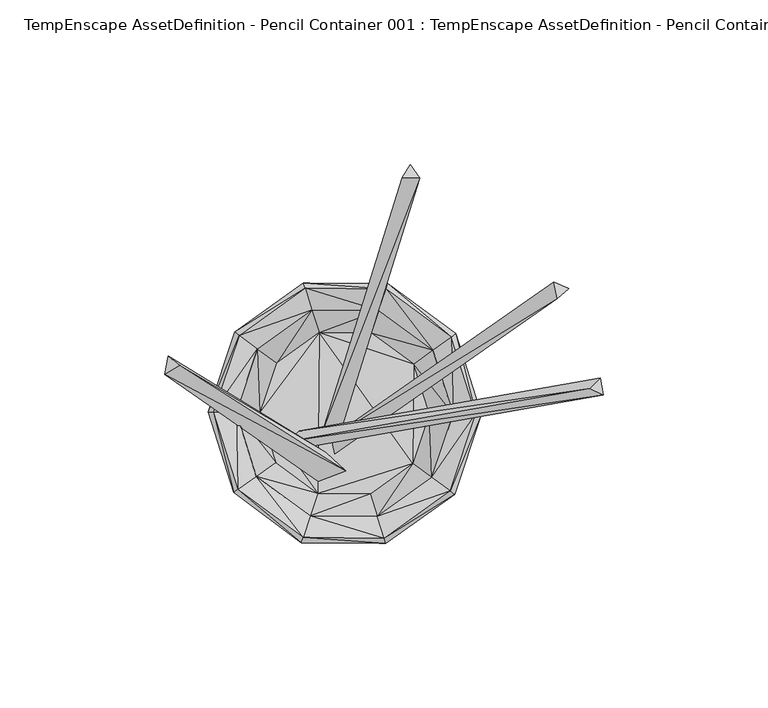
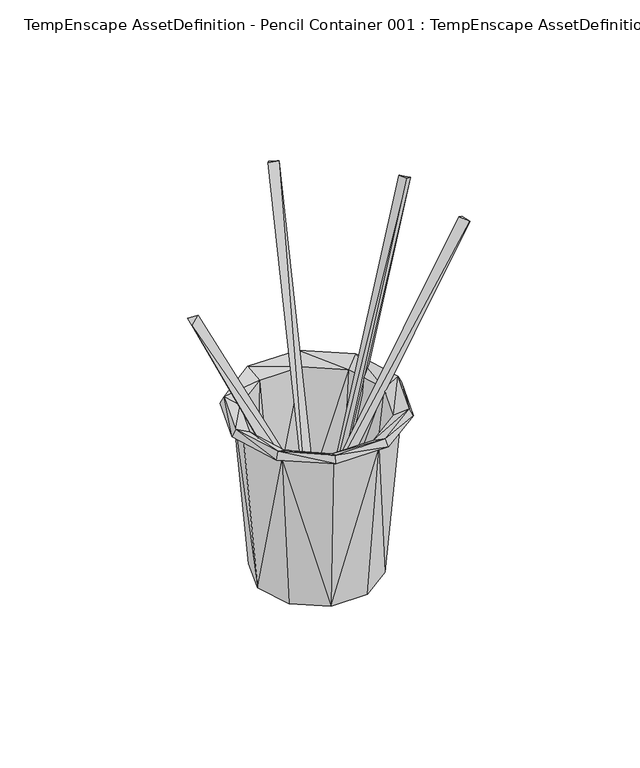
"""IFC4 building model written with IfcOpenShell, lengths in millimetres: geographic element geometry, TempEnscape AssetDefinition - Pencil Container 001 : TempEnscape AssetDefinition - Pencil Container 001."""

from ifc_helpers import new_model, si_unit, origin, place, context, project, spatial, faceted_brep, source, transform, mapped, element, save


def tempenscape_assetdefinition_pencil_container_001_tempenscape_466b47a7(model_context):
    return source(origin(), model_context, "Body", "Brep", [
        faceted_brep([(-23.6661285, 17.1942711, 0.0), (-10.8405147, 34.2406593, 79.2191401), (-9.039239, 27.8211795, 0.0), (-28.8953707, 21.3287827, 79.2191401), (9.039239, 27.8211795, 0.0), (11.3570718, 34.0732671, 79.2191401), (-12.5360135, 39.5962186, 82.6296508), (13.1326728, 39.4021273, 82.6296508), (0.0, 0.0, 0.0), (-29.2527508, 0.0, 0.0), (-29.2147547, -20.8902732, 79.2191401), (-23.6661285, -17.1942711, 0.0), (-35.9145962, 0.2711155, 79.2191401), (-9.039239, -27.8211795, 0.0), (-11.3570718, -34.0732671, 79.2191401), (-33.7836668, -24.1580382, 82.6286227), (-41.5320247, 0.3142476, 82.6296508), (-33.4149897, 24.665352, 82.6286227), (-32.0717357, 23.6733183, 86.1243755), (-39.8622006, 0.3019241, 86.1243755), (-13.1326728, -39.4021273, 82.6296508), (-32.4260369, -23.1865421, 86.1243755), (-26.5251659, 19.5788555, 82.194224), (-32.9682678, 0.2495495, 82.1952522), (-12.0317787, 38.004443, 86.1243755), (-9.9511724, 31.4309187, 82.194224), (-20.7136385, 15.289274, 16.2104499), (-25.7446803, 0.1940941, 16.2104499), (-26.817847, -19.1752631, 82.194224), (-20.9416226, -14.973999, 16.2104499), (-7.7709518, 24.544172, 16.2104499), (-8.1406552, -24.4240183, 16.2104499), (10.4245981, 31.2768742, 82.194224), (8.1406552, 24.4240183, 16.2104499), (20.9416226, 14.973999, 16.2104499), (20.7136385, -15.289274, 16.2104499), (26.817847, 19.1752631, 82.194224), (12.6048196, 37.8175378, 86.1243755), (32.9672396, -0.2495495, 82.1952522), (25.7436521, -0.1940941, 16.2104499), (32.4260369, 23.1865421, 86.1243755), (33.7836668, 24.1580382, 82.6286227), (39.8622006, -0.3008972, 86.1243755), (29.2147547, 20.8902732, 79.2191401), (41.5320247, -0.3142476, 82.6296508), (29.2527508, 0.0, 0.0), (23.6661285, 17.1942711, 0.0), (35.9145962, -0.2711155, 79.2191401), (33.4160179, -24.665352, 82.6296508), (32.0727639, -23.6733183, 86.1254036), (28.896397, -21.329809, 79.2191401), (23.6661285, -17.1942711, 0.0), (9.039239, -27.8211795, 0.0), (10.8405147, -34.2406593, 79.2191401), (12.5360135, -39.5962186, 82.6296508), (12.0317787, -38.004443, 86.1243755), (-12.6048196, -37.8175378, 86.1243755), (-10.4245981, -31.2768742, 82.194224), (9.9511724, -31.4309187, 82.1952522), (7.7709518, -24.544172, 16.2104499), (26.5251659, -19.5788555, 82.1952522)], [[[0, 1, 2]], [[3, 1, 0]], [[1, 4, 2]], [[5, 4, 1]], [[1, 3, 6]], [[7, 1, 6]], [[5, 1, 7]], [[8, 0, 2]], [[8, 2, 4]], [[9, 3, 0]], [[8, 9, 0]], [[10, 9, 11]], [[12, 9, 10]], [[12, 3, 9]], [[8, 11, 9]], [[13, 10, 11]], [[8, 13, 11]], [[14, 10, 13]], [[10, 14, 15]], [[16, 10, 15]], [[12, 10, 16]], [[17, 12, 16]], [[3, 12, 17]], [[18, 16, 19]], [[17, 16, 18]], [[16, 15, 19]], [[15, 14, 20]], [[15, 20, 21]], [[19, 15, 21]], [[22, 19, 23]], [[18, 19, 22]], [[19, 21, 23]], [[24, 17, 18]], [[25, 18, 22]], [[24, 18, 25]], [[26, 25, 22]], [[27, 22, 23]], [[26, 22, 27]], [[23, 21, 28]], [[29, 23, 28]], [[27, 23, 29]], [[30, 26, 27]], [[31, 27, 29]], [[30, 27, 31]], [[30, 25, 26]], [[32, 24, 25]], [[30, 32, 25]], [[33, 32, 30]], [[30, 34, 33]], [[30, 35, 34]], [[30, 31, 35]], [[36, 37, 32]], [[37, 24, 32]], [[33, 36, 32]], [[34, 36, 33]], [[34, 38, 36]], [[39, 38, 34]], [[34, 35, 39]], [[40, 37, 36]], [[38, 40, 36]], [[40, 7, 37]], [[37, 6, 24]], [[7, 6, 37]], [[6, 17, 24]], [[6, 3, 17]], [[41, 5, 7]], [[41, 7, 40]], [[42, 41, 40]], [[42, 40, 38]], [[43, 5, 41]], [[44, 43, 41]], [[44, 41, 42]], [[5, 43, 4]], [[43, 45, 46]], [[47, 45, 43]], [[4, 43, 46]], [[47, 43, 44]], [[48, 47, 44]], [[49, 44, 42]], [[48, 44, 49]], [[47, 50, 45]], [[50, 47, 48]], [[45, 50, 51]], [[8, 45, 51]], [[8, 46, 45]], [[8, 4, 46]], [[8, 51, 52]], [[8, 52, 13]], [[51, 53, 52]], [[50, 53, 51]], [[54, 50, 48]], [[53, 50, 54]], [[53, 13, 52]], [[14, 13, 53]], [[20, 53, 54]], [[14, 53, 20]], [[54, 48, 55]], [[56, 54, 55]], [[20, 54, 56]], [[21, 20, 56]], [[28, 56, 57]], [[21, 56, 28]], [[56, 55, 57]], [[55, 48, 49]], [[55, 49, 58]], [[57, 55, 58]], [[31, 28, 57]], [[59, 57, 58]], [[31, 57, 59]], [[29, 28, 31]], [[35, 31, 59]], [[59, 58, 35]], [[58, 49, 60]], [[35, 58, 60]], [[49, 42, 60]], [[60, 42, 38]], [[39, 60, 38]], [[35, 60, 39]]]),
        faceted_brep([(0.2505765, -17.5988916, 26.1082221), (-54.7355562, 11.775041, 138.2607073), (-8.0543915, -20.7362324, 23.4843567), (-50.1389168, 14.427661, 140.501529), (-5.7807174, -11.8808178, 22.0312178), (-53.5453223, 17.4109582, 138.1806135)], [[[0, 1, 2]], [[3, 1, 0]], [[4, 1, 5]], [[2, 1, 4]], [[3, 5, 1]], [[0, 2, 4]], [[4, 3, 0]], [[5, 3, 4]]]),
        faceted_brep([(-2.962759, -12.3614315, 19.7421405), (68.1177825, 37.8832631, 156.6339284), (64.6559224, 34.8917469, 159.2434198), (0.5247729, -9.361702, 17.0371458), (63.489303, 39.9114937, 158.1106782), (-4.1386196, -7.2852033, 18.5940079)], [[[0, 1, 2]], [[3, 1, 0]], [[2, 1, 4]], [[1, 3, 4]], [[5, 2, 4]], [[0, 2, 5]], [[3, 0, 5]], [[4, 3, 5]]]),
        faceted_brep([(-3.7052457, -0.1129648, 17.5537057), (17.5270047, 71.6895238, 161.3856405), (19.9701246, 75.6278858, 158.8644683), (-6.1822562, -4.0934342, 20.1036278), (22.7418691, 71.5344548, 160.673961), (-0.9057724, -4.2957435, 19.3282794)], [[[0, 1, 2]], [[3, 1, 0]], [[3, 4, 1]], [[1, 4, 2]], [[5, 2, 4]], [[0, 2, 5]], [[3, 0, 5]], [[5, 4, 3]]]),
        faceted_brep([(-12.8707988, -10.6217731, 16.8502424), (77.7043849, 10.7491156, 149.5623291), (78.6276162, 5.5332216, 149.5602727), (-13.7971118, -5.3668553, 16.8502424), (74.5126158, 7.4916207, 152.2385627), (-17.0617942, -8.6510507, 19.5008069)], [[[0, 1, 2]], [[3, 1, 0]], [[3, 4, 1]], [[2, 1, 4]], [[2, 5, 0]], [[4, 5, 2]], [[3, 0, 5]], [[5, 4, 3]]]),
    ])


if __name__ == "__main__":
    model = new_model("IFC4")
    model_context = context("Model", 3, world=origin())
    ifc_project = project(units=[si_unit("LENGTHUNIT", "METRE", prefix="MILLI")], contexts=[model_context])
    site = spatial("IfcSite", under=ifc_project)
    building = spatial("IfcBuilding", under=site)
    placement = place(None, origin())
    tempenscape_assetdefinition_pencil_container_001_tempenscape_shape = tempenscape_assetdefinition_pencil_container_001_tempenscape_466b47a7(model_context)
    element("IfcGeographicElement", 1, ObjectType="TempEnscape AssetDefinition - Pencil Container 001 : TempEnscape AssetDefinition - Pencil Container 001", at=placement, inside=building, context=model_context, shape_type="MappedRepresentation", body=[
        mapped(tempenscape_assetdefinition_pencil_container_001_tempenscape_shape, transform((0.0, 0.0, 0.0), x_axis=(1.0, 0.0, 0.0), y_axis=(0.0, 1.0, 0.0), z_axis=(0.0, 0.0, 1.0))),
    ])
    save(model, "model.ifc")
